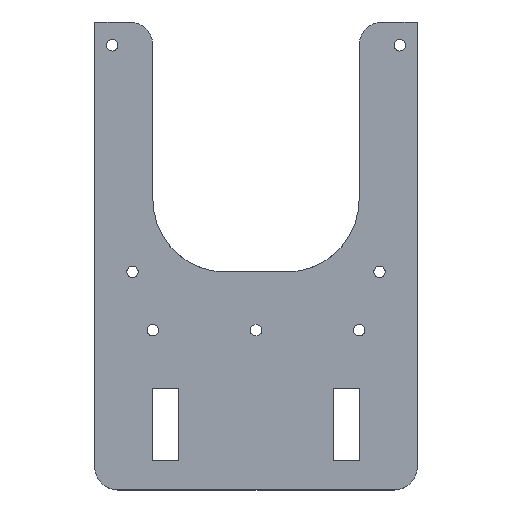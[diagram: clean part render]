
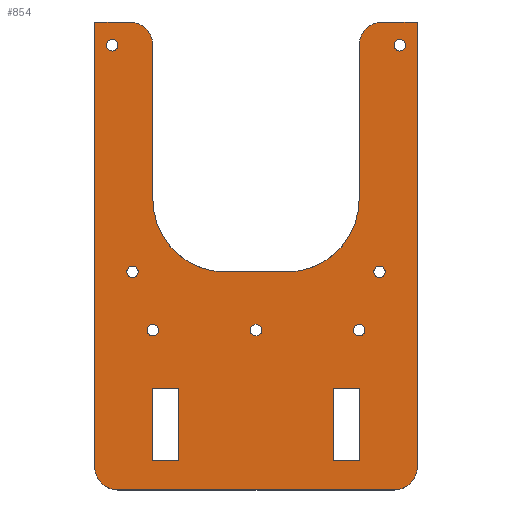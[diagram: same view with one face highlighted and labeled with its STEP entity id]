
A CAD part, top view. The second image highlights one B-rep face of the part: STEP entity #854.
In plain terms, the highlighted planar face has unit normal (0, 0, 1).
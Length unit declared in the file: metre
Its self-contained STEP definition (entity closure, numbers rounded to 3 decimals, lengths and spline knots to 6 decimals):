
#55=CIRCLE('',#919,0.025);
#57=CIRCLE('',#923,0.025);
#58=CIRCLE('',#926,0.002);
#59=CIRCLE('',#928,0.002);
#60=CIRCLE('',#930,0.002);
#61=CIRCLE('',#932,0.002);
#62=CIRCLE('',#934,0.002);
#63=CIRCLE('',#936,0.002);
#64=CIRCLE('',#939,0.002);
#65=CIRCLE('',#941,0.008);
#66=CIRCLE('',#942,0.008);
#67=CIRCLE('',#943,0.008);
#68=CIRCLE('',#944,0.008);
#170=ORIENTED_EDGE('',*,*,#394,.T.);
#171=ORIENTED_EDGE('',*,*,#395,.T.);
#172=ORIENTED_EDGE('',*,*,#362,.F.);
#173=ORIENTED_EDGE('',*,*,#366,.F.);
#174=ORIENTED_EDGE('',*,*,#396,.T.);
#175=ORIENTED_EDGE('',*,*,#370,.F.);
#176=ORIENTED_EDGE('',*,*,#373,.F.);
#177=ORIENTED_EDGE('',*,*,#377,.F.);
#178=ORIENTED_EDGE('',*,*,#380,.F.);
#179=ORIENTED_EDGE('',*,*,#383,.F.);
#180=ORIENTED_EDGE('',*,*,#397,.T.);
#181=ORIENTED_EDGE('',*,*,#392,.F.);
#182=ORIENTED_EDGE('',*,*,#359,.F.);
#183=ORIENTED_EDGE('',*,*,#398,.T.);
#184=ORIENTED_EDGE('',*,*,#389,.F.);
#185=ORIENTED_EDGE('',*,*,#388,.F.);
#186=ORIENTED_EDGE('',*,*,#387,.F.);
#187=ORIENTED_EDGE('',*,*,#386,.F.);
#188=ORIENTED_EDGE('',*,*,#385,.F.);
#189=ORIENTED_EDGE('',*,*,#384,.F.);
#190=ORIENTED_EDGE('',*,*,#393,.F.);
#191=ORIENTED_EDGE('',*,*,#399,.F.);
#192=ORIENTED_EDGE('',*,*,#400,.T.);
#193=ORIENTED_EDGE('',*,*,#401,.T.);
#194=ORIENTED_EDGE('',*,*,#402,.F.);
#195=ORIENTED_EDGE('',*,*,#403,.F.);
#196=ORIENTED_EDGE('',*,*,#404,.T.);
#197=ORIENTED_EDGE('',*,*,#405,.T.);
#198=ORIENTED_EDGE('',*,*,#406,.F.);
#359=EDGE_CURVE('',#478,#477,#547,.T.);
#362=EDGE_CURVE('',#480,#481,#549,.T.);
#366=EDGE_CURVE('',#483,#480,#553,.T.);
#370=EDGE_CURVE('',#487,#484,#557,.T.);
#373=EDGE_CURVE('',#489,#487,#55,.T.);
#377=EDGE_CURVE('',#491,#489,#560,.T.);
#380=EDGE_CURVE('',#493,#491,#57,.T.);
#383=EDGE_CURVE('',#495,#493,#564,.T.);
#384=EDGE_CURVE('',#496,#496,#58,.T.);
#385=EDGE_CURVE('',#497,#497,#59,.T.);
#386=EDGE_CURVE('',#498,#498,#60,.T.);
#387=EDGE_CURVE('',#499,#499,#61,.T.);
#388=EDGE_CURVE('',#500,#500,#62,.T.);
#389=EDGE_CURVE('',#501,#501,#63,.T.);
#392=EDGE_CURVE('',#477,#502,#567,.T.);
#393=EDGE_CURVE('',#504,#504,#64,.T.);
#394=EDGE_CURVE('',#505,#506,#568,.T.);
#395=EDGE_CURVE('',#506,#481,#65,.T.);
#396=EDGE_CURVE('',#483,#484,#66,.T.);
#397=EDGE_CURVE('',#495,#502,#67,.T.);
#398=EDGE_CURVE('',#478,#505,#68,.T.);
#399=EDGE_CURVE('',#507,#508,#569,.T.);
#400=EDGE_CURVE('',#507,#509,#570,.T.);
#401=EDGE_CURVE('',#509,#510,#571,.T.);
#402=EDGE_CURVE('',#508,#510,#572,.T.);
#403=EDGE_CURVE('',#511,#512,#573,.T.);
#404=EDGE_CURVE('',#511,#513,#574,.T.);
#405=EDGE_CURVE('',#513,#514,#575,.T.);
#406=EDGE_CURVE('',#512,#514,#576,.T.);
#477=VERTEX_POINT('',#1315);
#478=VERTEX_POINT('',#1318);
#480=VERTEX_POINT('',#1324);
#481=VERTEX_POINT('',#1326);
#483=VERTEX_POINT('',#1332);
#484=VERTEX_POINT('',#1336);
#487=VERTEX_POINT('',#1341);
#489=VERTEX_POINT('',#1347);
#491=VERTEX_POINT('',#1360);
#493=VERTEX_POINT('',#1366);
#495=VERTEX_POINT('',#1372);
#496=VERTEX_POINT('',#1376);
#497=VERTEX_POINT('',#1379);
#498=VERTEX_POINT('',#1382);
#499=VERTEX_POINT('',#1385);
#500=VERTEX_POINT('',#1388);
#501=VERTEX_POINT('',#1391);
#502=VERTEX_POINT('',#1394);
#504=VERTEX_POINT('',#1400);
#505=VERTEX_POINT('',#1403);
#506=VERTEX_POINT('',#1404);
#507=VERTEX_POINT('',#1410);
#508=VERTEX_POINT('',#1411);
#509=VERTEX_POINT('',#1413);
#510=VERTEX_POINT('',#1415);
#511=VERTEX_POINT('',#1418);
#512=VERTEX_POINT('',#1419);
#513=VERTEX_POINT('',#1421);
#514=VERTEX_POINT('',#1423);
#547=LINE('',#1319,#619);
#549=LINE('',#1325,#621);
#553=LINE('',#1333,#625);
#557=LINE('',#1342,#629);
#560=LINE('',#1361,#632);
#564=LINE('',#1373,#636);
#567=LINE('',#1397,#639);
#568=LINE('',#1402,#640);
#569=LINE('',#1409,#641);
#570=LINE('',#1412,#642);
#571=LINE('',#1414,#643);
#572=LINE('',#1416,#644);
#573=LINE('',#1417,#645);
#574=LINE('',#1420,#646);
#575=LINE('',#1422,#647);
#576=LINE('',#1424,#648);
#619=VECTOR('',#1044,1.);
#621=VECTOR('',#1050,1.);
#625=VECTOR('',#1056,1.);
#629=VECTOR('',#1062,1.);
#632=VECTOR('',#1073,1.);
#636=VECTOR('',#1085,1.);
#639=VECTOR('',#1114,1.);
#640=VECTOR('',#1121,1.);
#641=VECTOR('',#1130,1.);
#642=VECTOR('',#1131,1.);
#643=VECTOR('',#1132,1.);
#644=VECTOR('',#1133,1.);
#645=VECTOR('',#1134,1.);
#646=VECTOR('',#1135,1.);
#647=VECTOR('',#1136,1.);
#648=VECTOR('',#1137,1.);
#702=EDGE_LOOP('',(#170,#171,#172,#173,#174,#175,#176,#177,#178,#179,#180,
#181,#182,#183));
#703=EDGE_LOOP('',(#184));
#704=EDGE_LOOP('',(#185));
#705=EDGE_LOOP('',(#186));
#706=EDGE_LOOP('',(#187));
#707=EDGE_LOOP('',(#188));
#708=EDGE_LOOP('',(#189));
#709=EDGE_LOOP('',(#190));
#710=EDGE_LOOP('',(#191,#192,#193,#194));
#711=EDGE_LOOP('',(#195,#196,#197,#198));
#774=FACE_BOUND('',#702,.T.);
#775=FACE_BOUND('',#703,.T.);
#776=FACE_BOUND('',#704,.T.);
#777=FACE_BOUND('',#705,.T.);
#778=FACE_BOUND('',#706,.T.);
#779=FACE_BOUND('',#707,.T.);
#780=FACE_BOUND('',#708,.T.);
#781=FACE_BOUND('',#709,.T.);
#782=FACE_BOUND('',#710,.T.);
#783=FACE_BOUND('',#711,.T.);
#821=PLANE('',#940);
#854=ADVANCED_FACE('',(#774,#775,#776,#777,#778,#779,#780,#781,#782,#783),
#821,.T.);
#919=AXIS2_PLACEMENT_3D('',#1348,#1068,#1069);
#923=AXIS2_PLACEMENT_3D('',#1367,#1079,#1080);
#926=AXIS2_PLACEMENT_3D('',#1375,#1088,#1089);
#928=AXIS2_PLACEMENT_3D('',#1378,#1092,#1093);
#930=AXIS2_PLACEMENT_3D('',#1381,#1096,#1097);
#932=AXIS2_PLACEMENT_3D('',#1384,#1100,#1101);
#934=AXIS2_PLACEMENT_3D('',#1387,#1104,#1105);
#936=AXIS2_PLACEMENT_3D('',#1390,#1108,#1109);
#939=AXIS2_PLACEMENT_3D('',#1399,#1117,#1118);
#940=AXIS2_PLACEMENT_3D('',#1401,#1119,#1120);
#941=AXIS2_PLACEMENT_3D('',#1405,#1122,#1123);
#942=AXIS2_PLACEMENT_3D('',#1406,#1124,#1125);
#943=AXIS2_PLACEMENT_3D('',#1407,#1126,#1127);
#944=AXIS2_PLACEMENT_3D('',#1408,#1128,#1129);
#1044=DIRECTION('',(0.,1.,0.));
#1050=DIRECTION('',(0.,-1.,0.));
#1056=DIRECTION('',(1.,0.,0.));
#1062=DIRECTION('',(0.,1.,0.));
#1068=DIRECTION('',(0.,0.,1.));
#1069=DIRECTION('',(1.,0.,0.));
#1073=DIRECTION('',(1.,0.,0.));
#1079=DIRECTION('',(0.,0.,1.));
#1080=DIRECTION('',(1.,0.,0.));
#1085=DIRECTION('',(0.,-1.,0.));
#1088=DIRECTION('',(0.,0.,1.));
#1089=DIRECTION('',(1.,0.,0.));
#1092=DIRECTION('',(0.,0.,1.));
#1093=DIRECTION('',(1.,0.,0.));
#1096=DIRECTION('',(0.,0.,1.));
#1097=DIRECTION('',(1.,0.,0.));
#1100=DIRECTION('',(0.,0.,1.));
#1101=DIRECTION('',(1.,0.,0.));
#1104=DIRECTION('',(0.,0.,1.));
#1105=DIRECTION('',(1.,0.,0.));
#1108=DIRECTION('',(0.,0.,1.));
#1109=DIRECTION('',(1.,0.,0.));
#1114=DIRECTION('',(1.,0.,0.));
#1117=DIRECTION('',(0.,0.,1.));
#1118=DIRECTION('',(1.,0.,0.));
#1119=DIRECTION('',(0.,0.,1.));
#1120=DIRECTION('',(1.,0.,0.));
#1121=DIRECTION('',(1.,0.,0.));
#1122=DIRECTION('',(0.,0.,1.));
#1123=DIRECTION('',(1.,0.,0.));
#1124=DIRECTION('',(0.,0.,1.));
#1125=DIRECTION('',(1.,0.,0.));
#1126=DIRECTION('',(0.,0.,1.));
#1127=DIRECTION('',(1.,0.,0.));
#1128=DIRECTION('',(0.,0.,1.));
#1129=DIRECTION('',(1.,0.,0.));
#1130=DIRECTION('',(0.,-1.,0.));
#1131=DIRECTION('',(1.,0.,0.));
#1132=DIRECTION('',(0.,-1.,0.));
#1133=DIRECTION('',(1.,0.,0.));
#1134=DIRECTION('',(0.,-1.,0.));
#1135=DIRECTION('',(1.,0.,0.));
#1136=DIRECTION('',(0.,-1.,0.));
#1137=DIRECTION('',(1.,0.,0.));
#1315=CARTESIAN_POINT('',(-0.0555,0.0505,0.));
#1318=CARTESIAN_POINT('',(-0.0555,-0.1025,0.));
#1319=CARTESIAN_POINT('',(-0.0555,0.0025,0.));
#1324=CARTESIAN_POINT('',(0.0555,0.0505,0.));
#1325=CARTESIAN_POINT('',(0.0555,0.0025,0.));
#1326=CARTESIAN_POINT('',(0.0555,-0.1025,0.));
#1332=CARTESIAN_POINT('',(0.0435,0.0505,0.));
#1333=CARTESIAN_POINT('',(0.0455,0.0505,0.));
#1336=CARTESIAN_POINT('',(0.0355,0.0425,0.));
#1341=CARTESIAN_POINT('',(0.0355,-0.0105,0.));
#1342=CARTESIAN_POINT('',(0.0355,0.02,0.));
#1347=CARTESIAN_POINT('',(0.0105,-0.0355,0.));
#1348=CARTESIAN_POINT('',(0.0105,-0.0105,0.));
#1360=CARTESIAN_POINT('',(-0.0105,-0.0355,0.));
#1361=CARTESIAN_POINT('',(0.,-0.0355,0.));
#1366=CARTESIAN_POINT('',(-0.0355,-0.0105,0.));
#1367=CARTESIAN_POINT('',(-0.0105,-0.0105,0.));
#1372=CARTESIAN_POINT('',(-0.0355,0.0425,0.));
#1373=CARTESIAN_POINT('',(-0.0355,0.02,0.));
#1375=CARTESIAN_POINT('',(0.0425,-0.0355,0.));
#1376=CARTESIAN_POINT('',(0.0445,-0.0355,0.));
#1378=CARTESIAN_POINT('',(-0.0355,-0.0555,0.));
#1379=CARTESIAN_POINT('',(-0.0335,-0.0555,0.));
#1381=CARTESIAN_POINT('',(0.0355,-0.0555,0.));
#1382=CARTESIAN_POINT('',(0.0375,-0.0555,0.));
#1384=CARTESIAN_POINT('',(0.,-0.0555,0.));
#1385=CARTESIAN_POINT('',(0.002,-0.0555,0.));
#1387=CARTESIAN_POINT('',(0.0495,0.0425,0.));
#1388=CARTESIAN_POINT('',(0.0515,0.0425,0.));
#1390=CARTESIAN_POINT('',(-0.0495,0.0425,0.));
#1391=CARTESIAN_POINT('',(-0.0475,0.0425,0.));
#1394=CARTESIAN_POINT('',(-0.0435,0.0505,0.));
#1397=CARTESIAN_POINT('',(-0.0455,0.0505,0.));
#1399=CARTESIAN_POINT('',(-0.0425,-0.0355,0.));
#1400=CARTESIAN_POINT('',(-0.0405,-0.0355,0.));
#1401=CARTESIAN_POINT('',(0.,-0.03,0.));
#1402=CARTESIAN_POINT('',(0.,-0.1105,0.));
#1403=CARTESIAN_POINT('',(-0.0475,-0.1105,0.));
#1404=CARTESIAN_POINT('',(0.0475,-0.1105,0.));
#1405=CARTESIAN_POINT('',(0.0475,-0.1025,0.));
#1406=CARTESIAN_POINT('',(0.0435,0.0425,0.));
#1407=CARTESIAN_POINT('',(-0.0435,0.0425,0.));
#1408=CARTESIAN_POINT('',(-0.0475,-0.1025,0.));
#1409=CARTESIAN_POINT('',(0.0265,-0.088,0.));
#1410=CARTESIAN_POINT('',(0.0265,-0.0755,0.));
#1411=CARTESIAN_POINT('',(0.0265,-0.1005,0.));
#1412=CARTESIAN_POINT('',(0.031,-0.0755,0.));
#1413=CARTESIAN_POINT('',(0.0355,-0.0755,0.));
#1414=CARTESIAN_POINT('',(0.0355,-0.088,0.));
#1415=CARTESIAN_POINT('',(0.0355,-0.1005,0.));
#1416=CARTESIAN_POINT('',(0.031,-0.1005,0.));
#1417=CARTESIAN_POINT('',(-0.0355,-0.088,0.));
#1418=CARTESIAN_POINT('',(-0.0355,-0.0755,0.));
#1419=CARTESIAN_POINT('',(-0.0355,-0.1005,0.));
#1420=CARTESIAN_POINT('',(-0.031,-0.0755,0.));
#1421=CARTESIAN_POINT('',(-0.0265,-0.0755,0.));
#1422=CARTESIAN_POINT('',(-0.0265,-0.088,0.));
#1423=CARTESIAN_POINT('',(-0.0265,-0.1005,0.));
#1424=CARTESIAN_POINT('',(-0.031,-0.1005,0.));
